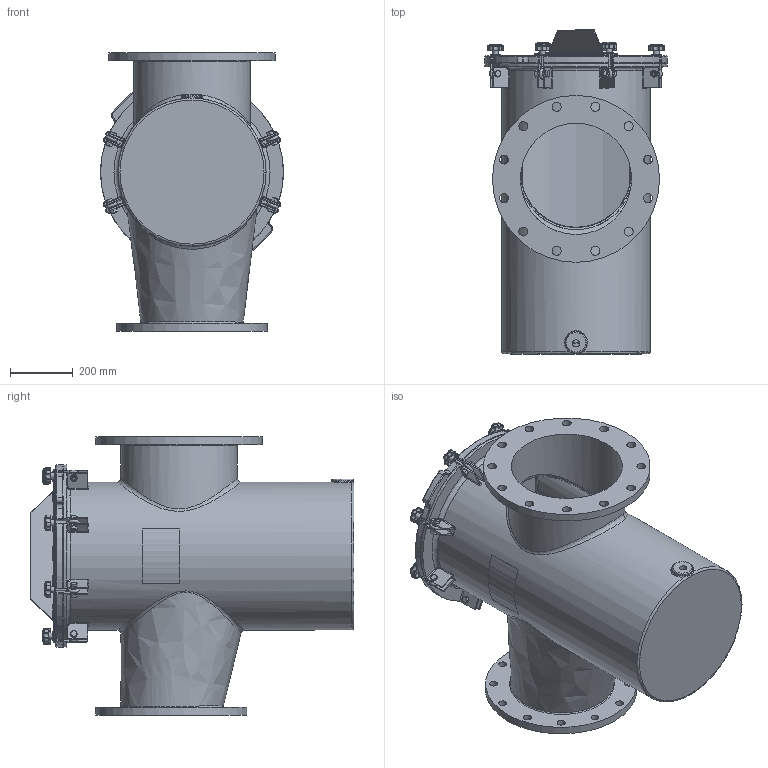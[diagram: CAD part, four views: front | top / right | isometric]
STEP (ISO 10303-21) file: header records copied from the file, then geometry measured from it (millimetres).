
FILE_DESCRIPTION(/* description */ ('STRAINER BODY'),/* implementation_level */ '2;1');
FILE_NAME(/* name */ 'Z:\Output\Strainers\11-14-2016\CAD\150NBFG42ER1.stp',/* time_stamp */ '2016-11-16T20:16:18+06:00',/* author */ ('20093558'),/* organization */ (''),/* preprocessor_version */ 'ST-DEVELOPER v16.1',/* originating_system */ 'Autodesk Inventor 2016',/* authorisation */ '');
FILE_SCHEMA (('AUTOMOTIVE_DESIGN { 1 0 10303 214 3 1 1 }'));
Length unit declared in the file: inch
Products named in the file (24): NBFG42EBODYR1; 150NBCVR18R2; 150NBGSK18R1; Perforated Basket 18in; Bride (Ring) 18in; Baffle 18in; Handle 18in; Bottom Strainer 18in; NBBSK14T316; BRACESTRCVR18_Welds; BRACE (BASE) FOR 18 BODY; BRACE (PROJ) FOR 18 BODY; Bumper; BRACESTRCVR18; Nut- 1_2  UNC; Bolt-1_2 x 1 1_2  UNC; EyeBolt; Washer; Knob M10; Securing Assembly For FG  with Brace; Securing Assembly For FG without Brace; Label for 18.625 inch (Right); Label for 18.625 inch (Left); Guardian FG Reducing H&L Strainer (Inch)
Assembly tree (39 placements, depth 3):
  Guardian FG Reducing H&L Strainer (Inch)
    NBFG42EBODYR1
    150NBCVR18R2
    150NBGSK18R1
    NBBSK14T316
      Perforated Basket 18in
      Bride (Ring) 18in
      Baffle 18in
      Handle 18in
      Bottom Strainer 18in
    BRACESTRCVR18
      BRACESTRCVR18_Welds
      BRACE (BASE) FOR 18 BODY
      BRACE (PROJ) FOR 18 BODY
      Bumper  x6
    Securing Assembly For FG  with Brace  x2
      Nut- 1_2  UNC
      Bolt-1_2 x 1 1_2  UNC
      EyeBolt
      Washer
      Knob M10
    Securing Assembly For FG without Brace  x6
      Nut- 1_2  UNC
      Bolt-1_2 x 1 1_2  UNC
      EyeBolt
      Washer
      Knob M10
    Label for 18.625 inch (Right)
    Label for 18.625 inch (Left)
Bounding box: 584.2 x 1035.05 x 889 mm (x, y, z)
Volume: 30965467.5 mm3; surface area: 7636679.5 mm2
Topology: 67 solids, 67 shells, 1831 faces, 4190 edges, 2480 vertices
Faces by surface type: cylinder 672, plane 511, cone 184, torus 168, sphere 158, bspline 138
Full cylindrical faces by diameter (mm): 3.175 x11, 6.35 x2, 8.382 x8, 9.525 x16, 10.592 x8, 12.7 x8, 15.875 x16, 19 x16, 19.05 x8, 22.809 x1, 25.4 x12, 28.575 x12, 31.75 x8, 68.263 x1, 352.425 x2, 355.6 x2, 358.14 x1, 371.475 x1, 457.2 x3, 463.55 x1, 473.075 x1, 482.6 x1, 520.7 x1, 527.05 x1, 533.4 x1
Entity records: 35503 total; most frequent: CARTESIAN_POINT 12034, DIRECTION 4838, ORIENTED_EDGE 4446, EDGE_CURVE 2223, AXIS2_PLACEMENT_3D 1979, VERTEX_POINT 1397, EDGE_LOOP 1204, ADVANCED_FACE 981
